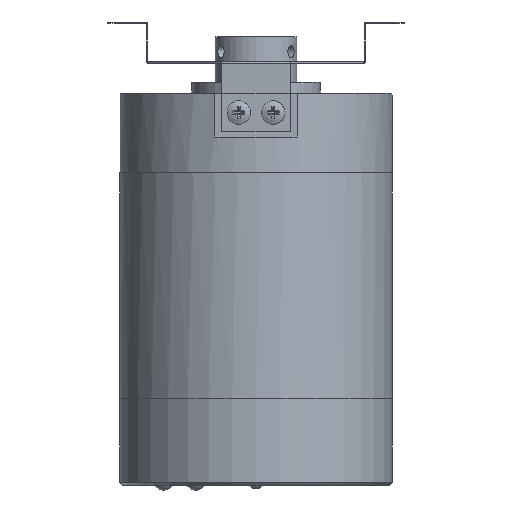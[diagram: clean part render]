
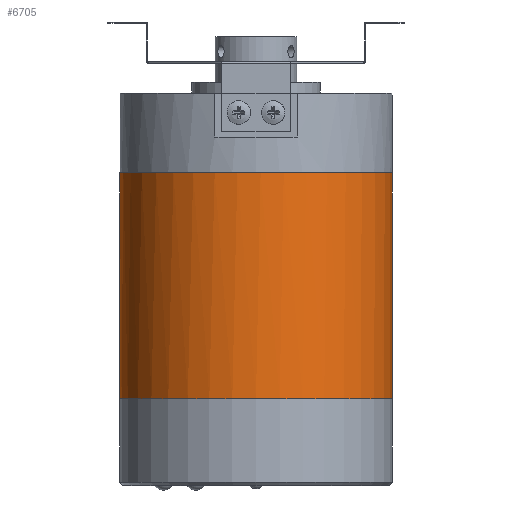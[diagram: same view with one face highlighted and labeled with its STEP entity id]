
A CAD part, front view. The second image highlights one B-rep face of the part: STEP entity #6705.
In plain terms, the highlighted cylindrical face has radius 31.75 mm (diameter 63.5 mm), a full revolution.
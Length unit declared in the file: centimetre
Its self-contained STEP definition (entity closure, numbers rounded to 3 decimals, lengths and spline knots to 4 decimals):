
#1988=B_SPLINE_CURVE_WITH_KNOTS('',3,(#9390,#9391,#9392,#9393,#9394,#9395,
#9396),.UNSPECIFIED.,.F.,.U.,(4,3,4),(1.0876,1.1958,
1.4393),.UNSPECIFIED.);
#1991=B_SPLINE_CURVE_WITH_KNOTS('',3,(#9490,#9491,#9492,#9493,#9494,#9495,
#9496,#9497,#9498,#9499),.UNSPECIFIED.,.F.,.U.,(4,2,2,2,4),(0.,
0.096,0.2496,0.4953,0.8746),
.UNSPECIFIED.);
#1993=B_SPLINE_CURVE_WITH_KNOTS('',3,(#9579,#9580,#9581,#9582,#9583,#9584,
#9585,#9586,#9587,#9588),.UNSPECIFIED.,.F.,.U.,(4,2,2,2,4),(0.,0.1165,
0.3029,0.6012,0.9088),.UNSPECIFIED.);
#1996=B_SPLINE_CURVE_WITH_KNOTS('',3,(#9807,#9808,#9809,#9810,#9811,#9812,
#9813,#9814,#9815,#9816),.UNSPECIFIED.,.F.,.U.,(4,3,3,4),(3.4489,
3.5459,3.7013,3.8006),.UNSPECIFIED.);
#2091=VECTOR('',#7713,1.);
#2093=VECTOR('',#7730,1.);
#2386=LINE('',#9425,#2091);
#2388=LINE('',#9603,#2093);
#2834=VERTEX_POINT('',#9389);
#2835=VERTEX_POINT('',#9397);
#2838=VERTEX_POINT('',#9424);
#2840=VERTEX_POINT('',#9489);
#2842=VERTEX_POINT('',#9513);
#2844=VERTEX_POINT('',#9578);
#2846=VERTEX_POINT('',#9602);
#2848=VERTEX_POINT('',#9806);
#2867=VERTEX_POINT('',#9927);
#3326=CIRCLE('',#7036,3.175);
#3346=CIRCLE('',#7077,3.175);
#3353=CIRCLE('',#7091,3.175);
#3602=EDGE_CURVE('',#2834,#2835,#1988,.F.);
#3606=EDGE_CURVE('',#2838,#2834,#2386,.T.);
#3609=EDGE_CURVE('',#2840,#2838,#1991,.F.);
#3612=EDGE_CURVE('',#2842,#2840,#3326,.T.);
#3615=EDGE_CURVE('',#2844,#2842,#1993,.F.);
#3618=EDGE_CURVE('',#2846,#2844,#2388,.T.);
#3621=EDGE_CURVE('',#2848,#2846,#1996,.F.);
#3651=EDGE_CURVE('',#2835,#2848,#3346,.T.);
#3658=EDGE_CURVE('',#2867,#2867,#3353,.T.);
#4430=ORIENTED_EDGE('',*,*,#3621,.F.);
#4431=ORIENTED_EDGE('',*,*,#3651,.F.);
#4432=ORIENTED_EDGE('',*,*,#3602,.F.);
#4433=ORIENTED_EDGE('',*,*,#3606,.F.);
#4434=ORIENTED_EDGE('',*,*,#3609,.F.);
#4435=ORIENTED_EDGE('',*,*,#3612,.F.);
#4436=ORIENTED_EDGE('',*,*,#3615,.F.);
#4437=ORIENTED_EDGE('',*,*,#3618,.F.);
#4438=ORIENTED_EDGE('',*,*,#3658,.T.);
#5760=EDGE_LOOP('',(#4430,#4431,#4432,#4433,#4434,#4435,#4436,#4437));
#5761=EDGE_LOOP('',(#4438));
#6243=FACE_BOUND('',#5760,.T.);
#6244=FACE_BOUND('',#5761,.T.);
#6705=ADVANCED_FACE('',(#6243,#6244),#12356,.T.);
#7036=AXIS2_PLACEMENT_3D('',#9514,#7720,#7721);
#7077=AXIS2_PLACEMENT_3D('',#9906,#7806,#7807);
#7090=AXIS2_PLACEMENT_3D('',#9925,#7829,#7830);
#7091=AXIS2_PLACEMENT_3D('',#9926,#7831,#7832);
#7713=DIRECTION('',(0.,0.,1.));
#7720=DIRECTION('',(0.,0.,1.));
#7721=DIRECTION('',(-0.012,3.175,0.));
#7730=DIRECTION('',(0.,0.,-1.));
#7806=DIRECTION('',(0.,0.,1.));
#7807=DIRECTION('',(3.175,0.,0.));
#7829=DIRECTION('',(0.,0.,-1.));
#7830=DIRECTION('',(3.175,0.,0.));
#7831=DIRECTION('',(0.,0.,1.));
#7832=DIRECTION('',(3.175,0.,0.));
#9389=CARTESIAN_POINT('',(-1.9301,2.521,-0.3175));
#9390=CARTESIAN_POINT('',(-1.8277,2.5962,0.));
#9391=CARTESIAN_POINT('',(-1.8468,2.5827,-0.0262));
#9392=CARTESIAN_POINT('',(-1.8639,2.5704,-0.0548));
#9393=CARTESIAN_POINT('',(-1.8785,2.5597,-0.0857));
#9394=CARTESIAN_POINT('',(-1.9113,2.5356,-0.1554));
#9395=CARTESIAN_POINT('',(-1.9301,2.521,-0.2363));
#9396=CARTESIAN_POINT('',(-1.9301,2.521,-0.3175));
#9397=CARTESIAN_POINT('',(-1.8277,2.5962,0.));
#9424=CARTESIAN_POINT('',(-1.9301,2.521,-3.2935));
#9425=CARTESIAN_POINT('',(-1.9301,2.521,0.));
#9489=CARTESIAN_POINT('',(-1.4472,2.826,-3.8068));
#9490=CARTESIAN_POINT('',(-1.9301,2.521,-3.2935));
#9491=CARTESIAN_POINT('',(-1.9301,2.521,-3.3255));
#9492=CARTESIAN_POINT('',(-1.9272,2.5232,-3.3579));
#9493=CARTESIAN_POINT('',(-1.9126,2.5343,-3.4395));
#9494=CARTESIAN_POINT('',(-1.8969,2.5462,-3.4869));
#9495=CARTESIAN_POINT('',(-1.8417,2.5866,-3.5996));
#9496=CARTESIAN_POINT('',(-1.7947,2.6199,-3.6573));
#9497=CARTESIAN_POINT('',(-1.6557,2.711,-3.77));
#9498=CARTESIAN_POINT('',(-1.5531,2.7718,-3.8068));
#9499=CARTESIAN_POINT('',(-1.4472,2.826,-3.8068));
#9513=CARTESIAN_POINT('',(1.4272,2.8362,-3.8068));
#9514=CARTESIAN_POINT('',(0.,0.,-3.8068));
#9578=CARTESIAN_POINT('',(1.9301,2.521,-3.2722));
#9579=CARTESIAN_POINT('',(1.4272,2.8362,-3.8068));
#9580=CARTESIAN_POINT('',(1.4598,2.8197,-3.8068));
#9581=CARTESIAN_POINT('',(1.4924,2.8026,-3.8034));
#9582=CARTESIAN_POINT('',(1.5752,2.7573,-3.7861));
#9583=CARTESIAN_POINT('',(1.6239,2.7288,-3.7673));
#9584=CARTESIAN_POINT('',(1.7418,2.656,-3.6985));
#9585=CARTESIAN_POINT('',(1.8055,2.6123,-3.6367));
#9586=CARTESIAN_POINT('',(1.9011,2.5436,-3.4756));
#9587=CARTESIAN_POINT('',(1.9301,2.521,-3.3747));
#9588=CARTESIAN_POINT('',(1.9301,2.521,-3.2722));
#9602=CARTESIAN_POINT('',(1.9301,2.521,-0.3175));
#9603=CARTESIAN_POINT('',(1.9301,2.521,0.));
#9806=CARTESIAN_POINT('',(1.8277,2.5962,0.));
#9807=CARTESIAN_POINT('',(1.9301,2.521,-0.3175));
#9808=CARTESIAN_POINT('',(1.9301,2.521,-0.2851));
#9809=CARTESIAN_POINT('',(1.9272,2.5232,-0.2525));
#9810=CARTESIAN_POINT('',(1.9215,2.5275,-0.2209));
#9811=CARTESIAN_POINT('',(1.9125,2.5344,-0.1703));
#9812=CARTESIAN_POINT('',(1.8964,2.5465,-0.1221));
#9813=CARTESIAN_POINT('',(1.8749,2.5623,-0.0782));
#9814=CARTESIAN_POINT('',(1.8611,2.5724,-0.0501));
#9815=CARTESIAN_POINT('',(1.8453,2.5838,-0.0241));
#9816=CARTESIAN_POINT('',(1.8277,2.5962,0.));
#9906=CARTESIAN_POINT('',(0.,0.,0.));
#9925=CARTESIAN_POINT('',(0.,0.,0.));
#9926=CARTESIAN_POINT('',(0.,0.,-5.251));
#9927=CARTESIAN_POINT('',(3.175,0.,-5.251));
#12356=CYLINDRICAL_SURFACE('',#7090,3.175);
